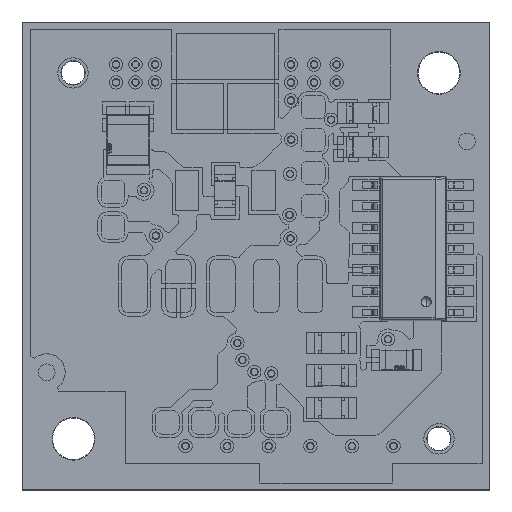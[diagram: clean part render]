
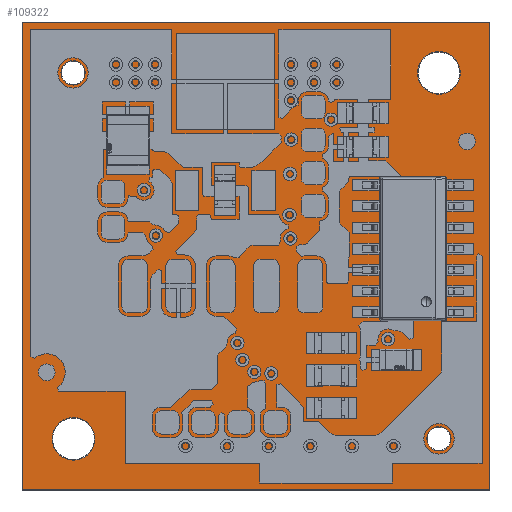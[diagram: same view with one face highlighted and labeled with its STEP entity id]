
A CAD part, top view. The second image highlights one B-rep face of the part: STEP entity #109322.
In plain terms, the highlighted planar face has unit normal (0, 0, 1).
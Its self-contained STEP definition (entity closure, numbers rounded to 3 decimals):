
#2402 = ORIENTED_EDGE ( 'NONE', *, *, #61947, .F. ) ;
#2879 = EDGE_CURVE ( 'NONE', #166929, #122438, #136743, .T. ) ;
#3334 = EDGE_LOOP ( 'NONE', ( #49104, #91601 ) ) ;
#5539 = CARTESIAN_POINT ( 'NONE',  ( 10.947, 10.952, -0.035 ) ) ;
#8316 = EDGE_CURVE ( 'NONE', #98782, #167374, #47437, .T. ) ;
#9431 = DIRECTION ( 'NONE',  ( -1., 0., 0. ) ) ;
#12474 = VERTEX_POINT ( 'NONE', #88589 ) ;
#12862 = VERTEX_POINT ( 'NONE', #162381 ) ;
#13808 = CIRCLE ( 'NONE', #111704, 1.25 ) ;
#16775 = AXIS2_PLACEMENT_3D ( 'NONE', #176298, #54487, #80741 ) ;
#18119 = AXIS2_PLACEMENT_3D ( 'NONE', #33301, #141928, #102530 ) ;
#21106 = EDGE_CURVE ( 'NONE', #166681, #110484, #122218, .T. ) ;
#21429 = CARTESIAN_POINT ( 'NONE',  ( 14., 14., -0.035 ) ) ;
#27655 = CIRCLE ( 'NONE', #51555, 0.7 ) ;
#28372 = VECTOR ( 'NONE', #167875, 1000. ) ;
#29787 = CARTESIAN_POINT ( 'NONE',  ( -14., -14., -0.035 ) ) ;
#31043 = EDGE_CURVE ( 'NONE', #75960, #12862, #53673, .T. ) ;
#31887 = VERTEX_POINT ( 'NONE', #168946 ) ;
#33301 = CARTESIAN_POINT ( 'NONE',  ( 10.947, -10.942, -0.035 ) ) ;
#33647 = FACE_BOUND ( 'NONE', #153203, .T. ) ;
#34693 = CARTESIAN_POINT ( 'NONE',  ( -17.288, -19., -0.035 ) ) ;
#37424 = ORIENTED_EDGE ( 'NONE', *, *, #21106, .T. ) ;
#37661 = DIRECTION ( 'NONE',  ( -1., 0., 0. ) ) ;
#39003 = DIRECTION ( 'NONE',  ( 0., 0., 1. ) ) ;
#43061 = ORIENTED_EDGE ( 'NONE', *, *, #8316, .F. ) ;
#43786 = CARTESIAN_POINT ( 'NONE',  ( 10.247, -10.942, -0.035 ) ) ;
#44220 = FACE_BOUND ( 'NONE', #56516, .T. ) ;
#44438 = CARTESIAN_POINT ( 'NONE',  ( 14., -14., -0.035 ) ) ;
#46108 = EDGE_CURVE ( 'NONE', #122438, #166929, #155190, .T. ) ;
#46778 = DIRECTION ( 'NONE',  ( 0., 0., 1. ) ) ;
#47437 = CIRCLE ( 'NONE', #112415, 0.7 ) ;
#48842 = DIRECTION ( 'NONE',  ( 0., 1., 0. ) ) ;
#49104 = ORIENTED_EDGE ( 'NONE', *, *, #46108, .F. ) ;
#50350 = CARTESIAN_POINT ( 'NONE',  ( -14., -14., -0.035 ) ) ;
#51176 = ORIENTED_EDGE ( 'NONE', *, *, #173379, .F. ) ;
#51555 = AXIS2_PLACEMENT_3D ( 'NONE', #124555, #55991, #139499 ) ;
#53673 = LINE ( 'NONE', #21429, #79203 ) ;
#54487 = DIRECTION ( 'NONE',  ( 0., 0., 1. ) ) ;
#54826 = AXIS2_PLACEMENT_3D ( 'NONE', #34693, #159430, #130113 ) ;
#55048 = FACE_OUTER_BOUND ( 'NONE', #146361, .T. ) ;
#55991 = DIRECTION ( 'NONE',  ( 0., 0., 1. ) ) ;
#56516 = EDGE_LOOP ( 'NONE', ( #2402, #91667 ) ) ;
#58013 = EDGE_CURVE ( 'NONE', #31887, #103673, #84816, .T. ) ;
#61947 = EDGE_CURVE ( 'NONE', #168884, #12474, #153855, .T. ) ;
#62504 = CARTESIAN_POINT ( 'NONE',  ( 11.647, -10.942, -0.035 ) ) ;
#63898 = PLANE ( 'NONE',  #54826 ) ;
#64668 = LINE ( 'NONE', #102168, #28372 ) ;
#69942 = FACE_BOUND ( 'NONE', #3334, .T. ) ;
#71010 = ORIENTED_EDGE ( 'NONE', *, *, #31043, .T. ) ;
#75960 = VERTEX_POINT ( 'NONE', #44438 ) ;
#77224 = EDGE_CURVE ( 'NONE', #103673, #31887, #129546, .T. ) ;
#77260 = CARTESIAN_POINT ( 'NONE',  ( 10.947, -10.942, -0.035 ) ) ;
#79005 = ORIENTED_EDGE ( 'NONE', *, *, #166443, .T. ) ;
#79203 = VECTOR ( 'NONE', #48842, 1000. ) ;
#79401 = CARTESIAN_POINT ( 'NONE',  ( -10.922, -10.942, -0.035 ) ) ;
#80741 = DIRECTION ( 'NONE',  ( -1., 0., 0. ) ) ;
#81017 = DIRECTION ( 'NONE',  ( 0., 0., 1. ) ) ;
#84816 = CIRCLE ( 'NONE', #172912, 1.25 ) ;
#85908 = CARTESIAN_POINT ( 'NONE',  ( -10.247, 10.952, -0.035 ) ) ;
#88589 = CARTESIAN_POINT ( 'NONE',  ( 9.697, 10.952, -0.035 ) ) ;
#91601 = ORIENTED_EDGE ( 'NONE', *, *, #2879, .F. ) ;
#91667 = ORIENTED_EDGE ( 'NONE', *, *, #144110, .F. ) ;
#98782 = VERTEX_POINT ( 'NONE', #134612 ) ;
#98913 = ORIENTED_EDGE ( 'NONE', *, *, #58013, .F. ) ;
#100100 = EDGE_CURVE ( 'NONE', #110484, #75960, #64668, .T. ) ;
#102168 = CARTESIAN_POINT ( 'NONE',  ( 14., -14., -0.035 ) ) ;
#102530 = DIRECTION ( 'NONE',  ( -1., 0., 0. ) ) ;
#103673 = VERTEX_POINT ( 'NONE', #161010 ) ;
#106500 = AXIS2_PLACEMENT_3D ( 'NONE', #77260, #39003, #119542 ) ;
#109322 = ADVANCED_FACE ( 'NONE', ( #55048, #44220, #69942, #33647, #127583 ), #63898, .F. ) ;
#110484 = VERTEX_POINT ( 'NONE', #50350 ) ;
#111250 = ORIENTED_EDGE ( 'NONE', *, *, #77224, .F. ) ;
#111704 = AXIS2_PLACEMENT_3D ( 'NONE', #5539, #46778, #142862 ) ;
#112415 = AXIS2_PLACEMENT_3D ( 'NONE', #157577, #118670, #9431 ) ;
#114357 = DIRECTION ( 'NONE',  ( -1., 0., 0. ) ) ;
#118670 = DIRECTION ( 'NONE',  ( 0., 0., 1. ) ) ;
#119542 = DIRECTION ( 'NONE',  ( -1., 0., 0. ) ) ;
#120400 = CARTESIAN_POINT ( 'NONE',  ( 10.947, 10.952, -0.035 ) ) ;
#122218 = LINE ( 'NONE', #29787, #165127 ) ;
#122438 = VERTEX_POINT ( 'NONE', #62504 ) ;
#123734 = CARTESIAN_POINT ( 'NONE',  ( -14., 14., -0.035 ) ) ;
#124555 = CARTESIAN_POINT ( 'NONE',  ( -10.947, 10.952, -0.035 ) ) ;
#127583 = FACE_BOUND ( 'NONE', #153264, .T. ) ;
#129546 = CIRCLE ( 'NONE', #16775, 1.25 ) ;
#130113 = DIRECTION ( 'NONE',  ( -1., 0., 0. ) ) ;
#131960 = VECTOR ( 'NONE', #114357, 1000. ) ;
#134612 = CARTESIAN_POINT ( 'NONE',  ( -11.647, 10.952, -0.035 ) ) ;
#136495 = DIRECTION ( 'NONE',  ( -1., 0., 0. ) ) ;
#136743 = CIRCLE ( 'NONE', #18119, 0.7 ) ;
#139499 = DIRECTION ( 'NONE',  ( -1., 0., 0. ) ) ;
#141928 = DIRECTION ( 'NONE',  ( 0., 0., 1. ) ) ;
#142862 = DIRECTION ( 'NONE',  ( -1., 0., 0. ) ) ;
#144110 = EDGE_CURVE ( 'NONE', #12474, #168884, #13808, .T. ) ;
#146361 = EDGE_LOOP ( 'NONE', ( #37424, #147287, #71010, #79005 ) ) ;
#146932 = LINE ( 'NONE', #156178, #131960 ) ;
#147287 = ORIENTED_EDGE ( 'NONE', *, *, #100100, .T. ) ;
#148058 = DIRECTION ( 'NONE',  ( 0., 0., 1. ) ) ;
#150975 = DIRECTION ( 'NONE',  ( 0., -1., 0. ) ) ;
#153203 = EDGE_LOOP ( 'NONE', ( #51176, #43061 ) ) ;
#153264 = EDGE_LOOP ( 'NONE', ( #111250, #98913 ) ) ;
#153855 = CIRCLE ( 'NONE', #175560, 1.25 ) ;
#155190 = CIRCLE ( 'NONE', #106500, 0.7 ) ;
#156178 = CARTESIAN_POINT ( 'NONE',  ( -17.288, 14., -0.035 ) ) ;
#157577 = CARTESIAN_POINT ( 'NONE',  ( -10.947, 10.952, -0.035 ) ) ;
#159430 = DIRECTION ( 'NONE',  ( 0., 0., -1. ) ) ;
#161010 = CARTESIAN_POINT ( 'NONE',  ( -9.672, -10.942, -0.035 ) ) ;
#162381 = CARTESIAN_POINT ( 'NONE',  ( 14., 14., -0.035 ) ) ;
#165127 = VECTOR ( 'NONE', #150975, 1000. ) ;
#165610 = CARTESIAN_POINT ( 'NONE',  ( 12.197, 10.952, -0.035 ) ) ;
#166443 = EDGE_CURVE ( 'NONE', #12862, #166681, #146932, .T. ) ;
#166681 = VERTEX_POINT ( 'NONE', #123734 ) ;
#166929 = VERTEX_POINT ( 'NONE', #43786 ) ;
#167374 = VERTEX_POINT ( 'NONE', #85908 ) ;
#167875 = DIRECTION ( 'NONE',  ( 1., 0., 0. ) ) ;
#168884 = VERTEX_POINT ( 'NONE', #165610 ) ;
#168946 = CARTESIAN_POINT ( 'NONE',  ( -12.172, -10.942, -0.035 ) ) ;
#172912 = AXIS2_PLACEMENT_3D ( 'NONE', #79401, #148058, #37661 ) ;
#173379 = EDGE_CURVE ( 'NONE', #167374, #98782, #27655, .T. ) ;
#175560 = AXIS2_PLACEMENT_3D ( 'NONE', #120400, #81017, #136495 ) ;
#176298 = CARTESIAN_POINT ( 'NONE',  ( -10.922, -10.942, -0.035 ) ) ;
